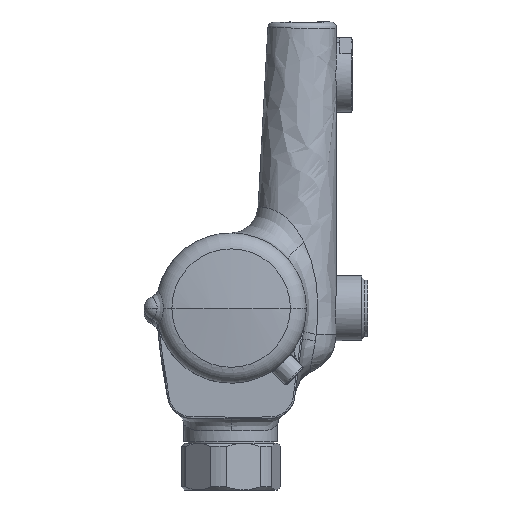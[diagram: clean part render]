
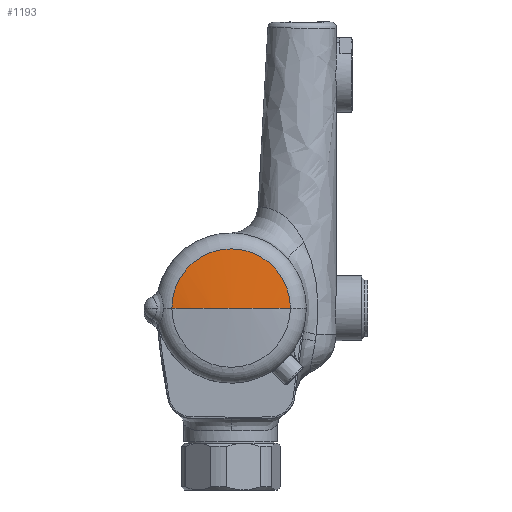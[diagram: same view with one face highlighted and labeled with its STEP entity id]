
A CAD part, left-side view. The second image highlights one B-rep face of the part: STEP entity #1193.
In plain terms, the highlighted spherical face has radius 130 mm.
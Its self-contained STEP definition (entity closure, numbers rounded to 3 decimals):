
#134 = ORIENTED_EDGE ( 'NONE', *, *, #7993, .T. ) ;
#437 = CARTESIAN_POINT ( 'NONE',  ( -143.239, 19.051, 58.5 ) ) ;
#1193 = ADVANCED_FACE ( 'NONE', ( #3810 ), #5118, .T. ) ;
#1314 = DIRECTION ( 'NONE',  ( 0., -1., 0. ) ) ;
#2059 = VERTEX_POINT ( 'NONE', #437 ) ;
#2375 = AXIS2_PLACEMENT_3D ( 'NONE', #5654, #11837, #8489 ) ;
#2753 = AXIS2_PLACEMENT_3D ( 'NONE', #10050, #4073, #10152 ) ;
#2793 = AXIS2_PLACEMENT_3D ( 'NONE', #10031, #13707, #1314 ) ;
#2934 = CIRCLE ( 'NONE', #2375, 130. ) ;
#3028 = VERTEX_POINT ( 'NONE', #4297 ) ;
#3810 = FACE_OUTER_BOUND ( 'NONE', #8409, .T. ) ;
#3897 = VERTEX_POINT ( 'NONE', #12850 ) ;
#4018 = DIRECTION ( 'NONE',  ( -1., 0., 0. ) ) ;
#4073 = DIRECTION ( 'NONE',  ( 0., 0., -1. ) ) ;
#4297 = CARTESIAN_POINT ( 'NONE',  ( -143.239, -19.051, 58.5 ) ) ;
#5118 = SPHERICAL_SURFACE ( 'NONE', #2793, 130. ) ;
#5282 = CARTESIAN_POINT ( 'NONE',  ( -143.239, 0., 58.5 ) ) ;
#5654 = CARTESIAN_POINT ( 'NONE',  ( -14.642, 0., 58.5 ) ) ;
#7040 = ORIENTED_EDGE ( 'NONE', *, *, #10724, .F. ) ;
#7993 = EDGE_CURVE ( 'NONE', #3028, #2059, #11330, .T. ) ;
#8409 = EDGE_LOOP ( 'NONE', ( #7040, #12582, #134 ) ) ;
#8489 = DIRECTION ( 'NONE',  ( 1., 0., 0. ) ) ;
#9061 = AXIS2_PLACEMENT_3D ( 'NONE', #5282, #4018, #11360 ) ;
#10031 = CARTESIAN_POINT ( 'NONE',  ( -14.642, 0., 58.5 ) ) ;
#10050 = CARTESIAN_POINT ( 'NONE',  ( -14.642, 0., 58.5 ) ) ;
#10152 = DIRECTION ( 'NONE',  ( 0., 1., 0. ) ) ;
#10724 = EDGE_CURVE ( 'NONE', #3897, #2059, #13275, .T. ) ;
#11330 = CIRCLE ( 'NONE', #9061, 19.051 ) ;
#11360 = DIRECTION ( 'NONE',  ( 0., -1., 0. ) ) ;
#11837 = DIRECTION ( 'NONE',  ( 0., 0., 1. ) ) ;
#12582 = ORIENTED_EDGE ( 'NONE', *, *, #12888, .T. ) ;
#12850 = CARTESIAN_POINT ( 'NONE',  ( -144.642, 0., 58.5 ) ) ;
#12888 = EDGE_CURVE ( 'NONE', #3897, #3028, #2934, .T. ) ;
#13275 = CIRCLE ( 'NONE', #2753, 130. ) ;
#13707 = DIRECTION ( 'NONE',  ( 0., 0., -1. ) ) ;
